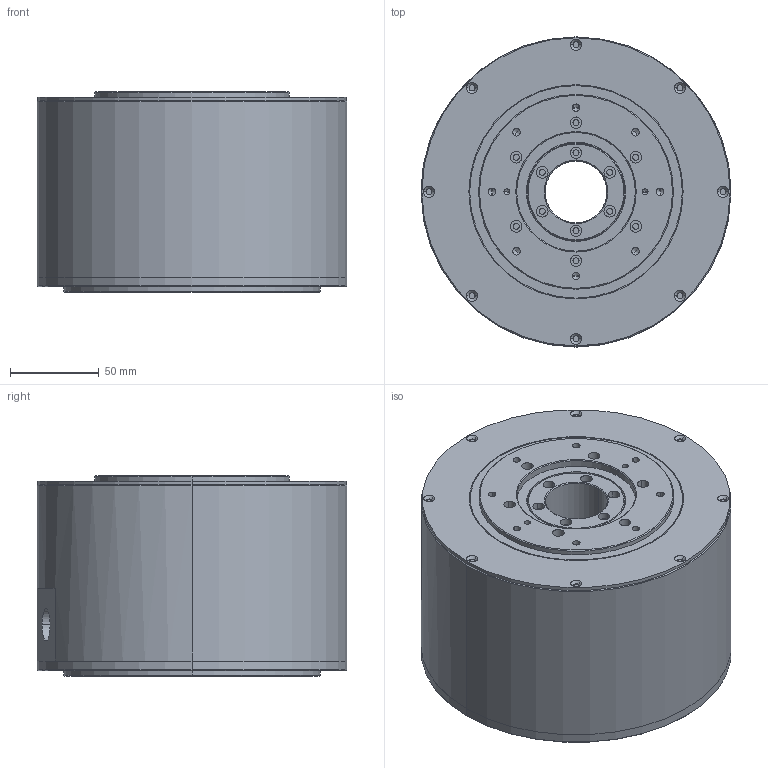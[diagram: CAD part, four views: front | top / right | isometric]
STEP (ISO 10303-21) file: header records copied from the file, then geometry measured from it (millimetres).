
FILE_DESCRIPTION((''),'2;1');
FILE_NAME('PM-DDC18D','2016-02-05T',('jb17719'),(''),'PRO/ENGINEER BY PARAMETRIC TECHNOLOGY CORPORATION, 2008070','PRO/ENGINEER BY PARAMETRIC TECHNOLOGY CORPORATION, 2008070','');
FILE_SCHEMA(('AUTOMOTIVE_DESIGN_CC2 { 1 2 10303 214 -1 1 5 2 }'));
Length unit declared in the file: millimetre
Products named in the file (1): PM-DDC18D
Bounding box: 175 x 175 x 113 mm (x, y, z)
Volume: 2481804.2 mm3; surface area: 178360.9 mm2
Topology: 2 solids, 2 shells, 320 faces, 726 edges, 448 vertices
Faces by surface type: cylinder 186, cone 70, plane 64
Entity records: 9176 total; most frequent: DIRECTION 1757, CARTESIAN_POINT 1458, ORIENTED_EDGE 1380, AXIS2_PLACEMENT_3D 747, EDGE_CURVE 690, VERTEX_POINT 448, CIRCLE 427, EDGE_LOOP 426
